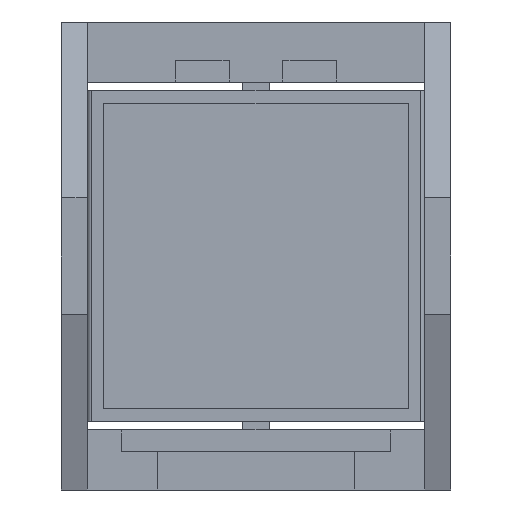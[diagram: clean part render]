
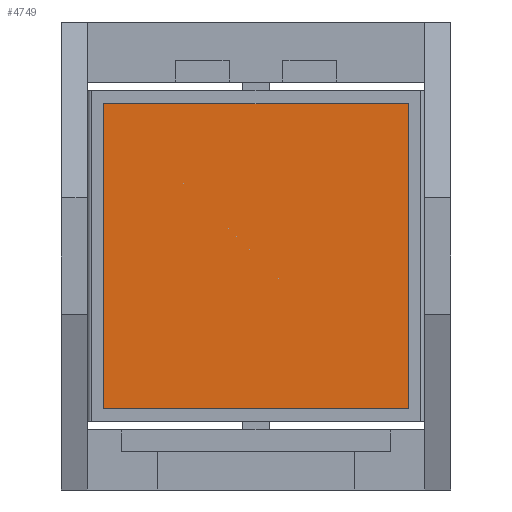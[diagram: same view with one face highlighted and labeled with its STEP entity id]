
A CAD part, front view. The second image highlights one B-rep face of the part: STEP entity #4749.
In plain terms, the highlighted planar face has unit normal (0, -1, 0).
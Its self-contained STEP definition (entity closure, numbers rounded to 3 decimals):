
#80 = VECTOR ( 'NONE', #2410, 1000. ) ;
#281 = LINE ( 'NONE', #1921, #80 ) ;
#616 = EDGE_CURVE ( 'NONE', #5318, #3156, #6284, .T. ) ;
#833 = ORIENTED_EDGE ( 'NONE', *, *, #3118, .F. ) ;
#928 = VECTOR ( 'NONE', #2112, 1000. ) ;
#986 = CARTESIAN_POINT ( 'NONE',  ( -9.011, -2.481, -6.631 ) ) ;
#1030 = VERTEX_POINT ( 'NONE', #2645 ) ;
#1080 = DIRECTION ( 'NONE',  ( 0., 1., 0. ) ) ;
#1153 = EDGE_LOOP ( 'NONE', ( #2658, #3800, #4257, #833 ) ) ;
#1165 = EDGE_CURVE ( 'NONE', #3156, #6361, #281, .T. ) ;
#1418 = CARTESIAN_POINT ( 'NONE',  ( 7.989, -2.481, 10.369 ) ) ;
#1816 = DIRECTION ( 'NONE',  ( 1., 0., 0. ) ) ;
#1921 = CARTESIAN_POINT ( 'NONE',  ( -9.011, -2.481, -6.631 ) ) ;
#1964 = DIRECTION ( 'NONE',  ( 0., 0., 1. ) ) ;
#2112 = DIRECTION ( 'NONE',  ( 0., 0., -1. ) ) ;
#2303 = LINE ( 'NONE', #6332, #6337 ) ;
#2410 = DIRECTION ( 'NONE',  ( -1., 0., 0. ) ) ;
#2473 = CARTESIAN_POINT ( 'NONE',  ( 7.989, -2.481, -6.631 ) ) ;
#2494 = PLANE ( 'NONE',  #3795 ) ;
#2645 = CARTESIAN_POINT ( 'NONE',  ( -9.011, -2.481, 10.369 ) ) ;
#2658 = ORIENTED_EDGE ( 'NONE', *, *, #3392, .F. ) ;
#2842 = VECTOR ( 'NONE', #3245, 1000. ) ;
#3118 = EDGE_CURVE ( 'NONE', #1030, #5318, #2303, .T. ) ;
#3156 = VERTEX_POINT ( 'NONE', #2473 ) ;
#3245 = DIRECTION ( 'NONE',  ( 0., 0., 1. ) ) ;
#3392 = EDGE_CURVE ( 'NONE', #6361, #1030, #6185, .T. ) ;
#3795 = AXIS2_PLACEMENT_3D ( 'NONE', #4054, #1080, #1964 ) ;
#3800 = ORIENTED_EDGE ( 'NONE', *, *, #1165, .F. ) ;
#4054 = CARTESIAN_POINT ( 'NONE',  ( -9.011, -2.481, 10.369 ) ) ;
#4257 = ORIENTED_EDGE ( 'NONE', *, *, #616, .F. ) ;
#4749 = ADVANCED_FACE ( 'NONE', ( #6076 ), #2494, .F. ) ;
#5179 = CARTESIAN_POINT ( 'NONE',  ( -9.011, -2.481, -6.631 ) ) ;
#5318 = VERTEX_POINT ( 'NONE', #1418 ) ;
#5775 = CARTESIAN_POINT ( 'NONE',  ( 7.989, -2.481, -6.631 ) ) ;
#6076 = FACE_OUTER_BOUND ( 'NONE', #1153, .T. ) ;
#6185 = LINE ( 'NONE', #5179, #2842 ) ;
#6284 = LINE ( 'NONE', #5775, #928 ) ;
#6332 = CARTESIAN_POINT ( 'NONE',  ( -9.011, -2.481, 10.369 ) ) ;
#6337 = VECTOR ( 'NONE', #1816, 1000. ) ;
#6361 = VERTEX_POINT ( 'NONE', #986 ) ;
